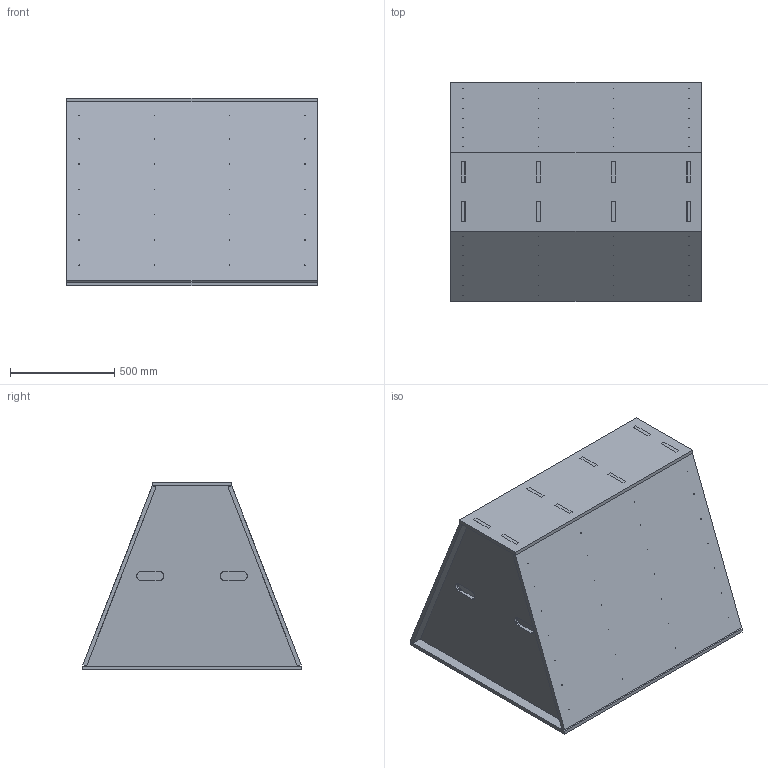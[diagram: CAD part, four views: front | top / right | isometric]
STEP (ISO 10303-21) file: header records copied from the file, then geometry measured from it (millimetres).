
FILE_DESCRIPTION(('Open CASCADE Model'),'2;1');
FILE_NAME('Open CASCADE Shape Model','2026-09-27T09:36:07',('Author'),( 'Open CASCADE'),'Open CASCADE STEP processor 7.9','Open CASCADE 7.9' ,'Unknown');
FILE_SCHEMA(('AUTOMOTIVE_DESIGN { 1 0 10303 214 1 1 1 1 }'));
Length unit declared in the file: millimetre
Products named in the file (9): Trapezoid_900_revision_08; P01_bottom; P02_top; P03_side_negative; P03_side_positive; P04_1; P05_2; P05_3; P04_4
Assembly tree (8 placements, depth 2):
  Trapezoid_900_revision_08
    P01_bottom
    P02_top
    P03_side_negative
    P03_side_positive
    P04_1
    P05_2
    P05_3
    P04_4
Bounding box: 1200 x 1050 x 900 mm (x, y, z)
Volume: 112291624.4 mm3; surface area: 13148178.1 mm2
Topology: 8 solids, 8 shells, 464 faces, 1344 edges, 896 vertices
Faces by surface type: plane 408, cylinder 56
Full cylindrical faces by diameter (mm): 2.5 x56
Entity records: 33228 total; most frequent: CARTESIAN_POINT 5737, DIRECTION 5034, LINE 3808, VECTOR 3808, ORIENTED_EDGE 2688, PCURVE 2688, DEFINITIONAL_REPRESENTATION 2688, EDGE_CURVE 1344
